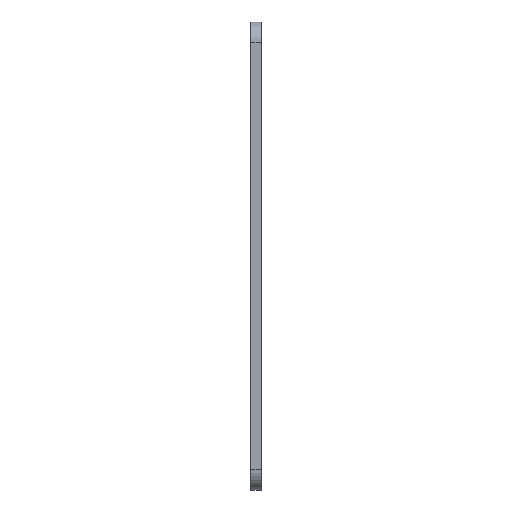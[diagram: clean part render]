
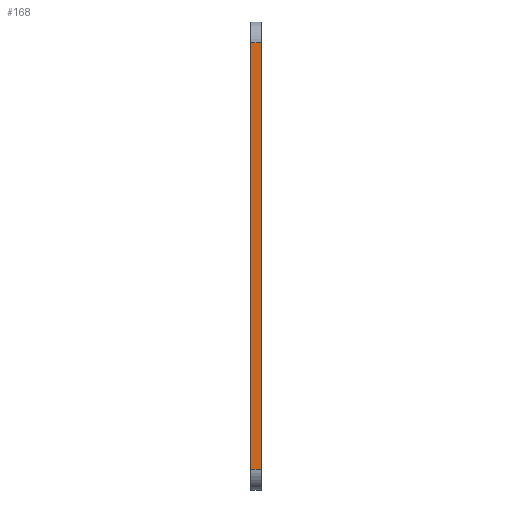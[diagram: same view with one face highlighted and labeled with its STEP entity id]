
A CAD part, left-side view. The second image highlights one B-rep face of the part: STEP entity #168.
In plain terms, the highlighted planar face has unit normal (-1, 0, 0).
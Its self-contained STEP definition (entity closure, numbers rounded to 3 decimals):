
#10 = EDGE_CURVE ( 'NONE', #409, #644, #441, .T. ) ;
#11 = DIRECTION ( 'NONE',  ( 0., 0., -1. ) ) ;
#13 = LINE ( 'NONE', #187, #247 ) ;
#45 = VECTOR ( 'NONE', #700, 1000. ) ;
#56 = AXIS2_PLACEMENT_3D ( 'NONE', #183, #515, #103 ) ;
#63 = CARTESIAN_POINT ( 'NONE',  ( -12.825, 2., 69.404 ) ) ;
#76 = CARTESIAN_POINT ( 'NONE',  ( -12.825, 2., -9.053 ) ) ;
#80 = ORIENTED_EDGE ( 'NONE', *, *, #10, .T. ) ;
#82 = CARTESIAN_POINT ( 'NONE',  ( -12.825, 0., -9.053 ) ) ;
#83 = EDGE_CURVE ( 'NONE', #653, #107, #13, .T. ) ;
#103 = DIRECTION ( 'NONE',  ( 0., 0., 1. ) ) ;
#107 = VERTEX_POINT ( 'NONE', #82 ) ;
#123 = VECTOR ( 'NONE', #550, 1000. ) ;
#151 = EDGE_LOOP ( 'NONE', ( #512, #434, #80, #371 ) ) ;
#168 = ADVANCED_FACE ( 'NONE', ( #581 ), #248, .T. ) ;
#183 = CARTESIAN_POINT ( 'NONE',  ( -12.825, 2., 69.404 ) ) ;
#187 = CARTESIAN_POINT ( 'NONE',  ( -12.825, 0., 69.404 ) ) ;
#211 = EDGE_CURVE ( 'NONE', #409, #653, #782, .T. ) ;
#223 = VECTOR ( 'NONE', #11, 1000. ) ;
#247 = VECTOR ( 'NONE', #262, 1000. ) ;
#248 = PLANE ( 'NONE',  #56 ) ;
#262 = DIRECTION ( 'NONE',  ( 0., 0., -1. ) ) ;
#371 = ORIENTED_EDGE ( 'NONE', *, *, #449, .T. ) ;
#393 = LINE ( 'NONE', #76, #123 ) ;
#409 = VERTEX_POINT ( 'NONE', #699 ) ;
#434 = ORIENTED_EDGE ( 'NONE', *, *, #211, .F. ) ;
#441 = LINE ( 'NONE', #640, #223 ) ;
#449 = EDGE_CURVE ( 'NONE', #644, #107, #393, .T. ) ;
#512 = ORIENTED_EDGE ( 'NONE', *, *, #83, .F. ) ;
#515 = DIRECTION ( 'NONE',  ( -1., 0., 0. ) ) ;
#550 = DIRECTION ( 'NONE',  ( 0., -1., 0. ) ) ;
#581 = FACE_OUTER_BOUND ( 'NONE', #151, .T. ) ;
#640 = CARTESIAN_POINT ( 'NONE',  ( -12.825, 2., 69.404 ) ) ;
#644 = VERTEX_POINT ( 'NONE', #716 ) ;
#653 = VERTEX_POINT ( 'NONE', #666 ) ;
#666 = CARTESIAN_POINT ( 'NONE',  ( -12.825, 0., 69.404 ) ) ;
#699 = CARTESIAN_POINT ( 'NONE',  ( -12.825, 2., 69.404 ) ) ;
#700 = DIRECTION ( 'NONE',  ( 0., -1., 0. ) ) ;
#716 = CARTESIAN_POINT ( 'NONE',  ( -12.825, 2., -9.053 ) ) ;
#782 = LINE ( 'NONE', #63, #45 ) ;
